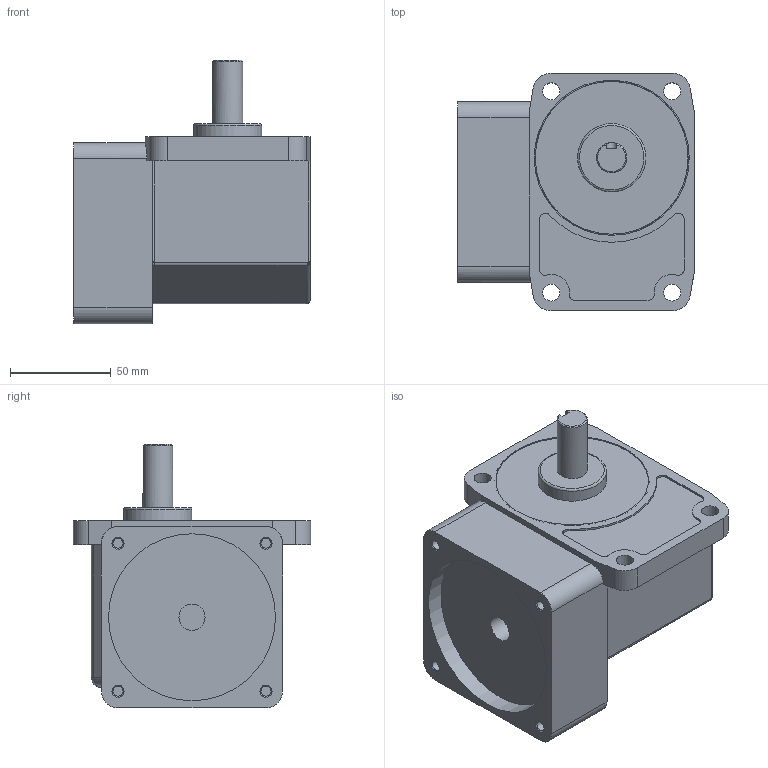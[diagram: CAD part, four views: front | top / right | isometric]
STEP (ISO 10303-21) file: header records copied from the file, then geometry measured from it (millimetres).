
FILE_DESCRIPTION((''),'2;1');
FILE_NAME('D:\작업\흐힠~\3D 모델링\SC9KC___1.stp','2015-03-31T13:19:26',('jy-jung'),(''),'Autodesk Inventor 2012','Autodesk Inventor 2012','');
FILE_SCHEMA(('AUTOMOTIVE_DESIGN { 1 0 10303 214 1 1 1 1 }'));
Length unit declared in the file: millimetre
Products named in the file (1): SC9KC___1
Bounding box: 117.5 x 118 x 131 mm (x, y, z)
Volume: 838903.2 mm3; surface area: 84814.2 mm2
Topology: 2 solids, 10 shells, 593 faces, 1450 edges, 887 vertices
Faces by surface type: plane 478, cylinder 85, cone 15, torus 9, sphere 3, bspline 3
Full cylindrical faces by diameter (mm): 2 x1, 5 x4, 8.5 x4, 13 x1, 15 x1, 17 x4, 19.92 x1, 24 x1, 34 x1, 76 x2, 83 x1
Entity records: 17781 total; most frequent: CARTESIAN_POINT 3115, DIRECTION 3075, ORIENTED_EDGE 2804, EDGE_CURVE 1402, AXIS2_PLACEMENT_3D 1094, VECTOR 887, LINE 887, VERTEX_POINT 876
